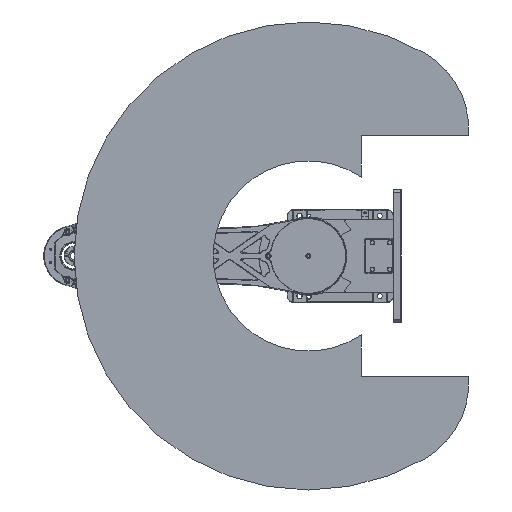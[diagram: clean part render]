
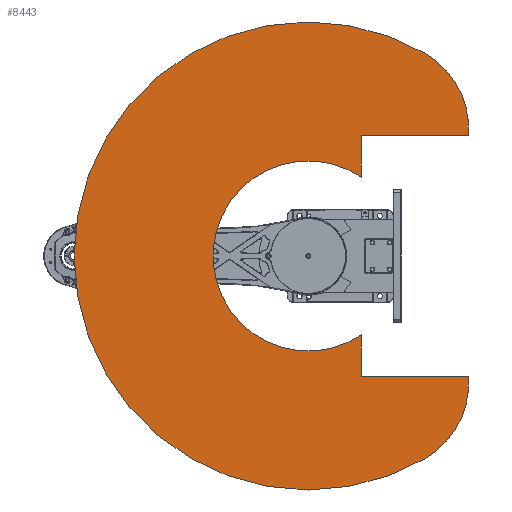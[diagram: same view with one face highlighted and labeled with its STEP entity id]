
A CAD part, front view. The second image highlights one B-rep face of the part: STEP entity #8443.
In plain terms, the highlighted planar face has unit normal (0, -1, 0).
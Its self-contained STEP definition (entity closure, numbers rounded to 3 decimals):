
#8443 = ADVANCED_FACE( '', ( #18847 ), #18848, .F. );
#18847 = FACE_OUTER_BOUND( '', #32738, .T. );
#18848 = PLANE( '', #32739 );
#32738 = EDGE_LOOP( '', ( #57113, #57114, #57115, #57116, #57117, #57118, #57119, #57120 ) );
#32739 = AXIS2_PLACEMENT_3D( '', #57121, #57122, #57123 );
#57113 = ORIENTED_EDGE( '', *, *, #73021, .T. );
#57114 = ORIENTED_EDGE( '', *, *, #74919, .F. );
#57115 = ORIENTED_EDGE( '', *, *, #77777, .F. );
#57116 = ORIENTED_EDGE( '', *, *, #72679, .F. );
#57117 = ORIENTED_EDGE( '', *, *, #77550, .T. );
#57118 = ORIENTED_EDGE( '', *, *, #77778, .T. );
#57119 = ORIENTED_EDGE( '', *, *, #77779, .T. );
#57120 = ORIENTED_EDGE( '', *, *, #77780, .T. );
#57121 = CARTESIAN_POINT( '', ( 95.263, 0., 55. ) );
#57122 = DIRECTION( '', ( 0., 1., 0. ) );
#57123 = DIRECTION( '', ( 0., 0., 1. ) );
#72679 = EDGE_CURVE( '', #87577, #87579, #87580, .T. );
#73021 = EDGE_CURVE( '', #88138, #88136, #88139, .T. );
#74919 = EDGE_CURVE( '', #91044, #88136, #91046, .T. );
#77550 = EDGE_CURVE( '', #87577, #94702, #94704, .T. );
#77777 = EDGE_CURVE( '', #87579, #91044, #94997, .T. );
#77778 = EDGE_CURVE( '', #94702, #94998, #94999, .T. );
#77779 = EDGE_CURVE( '', #94998, #95000, #95001, .T. );
#77780 = EDGE_CURVE( '', #95000, #88138, #95002, .T. );
#87577 = VERTEX_POINT( '', #110444 );
#87579 = VERTEX_POINT( '', #110447 );
#87580 = CIRCLE( '', #110448, 130. );
#88136 = VERTEX_POINT( '', #111342 );
#88138 = VERTEX_POINT( '', #111345 );
#88139 = LINE( '', #111346, #111347 );
#91044 = VERTEX_POINT( '', #116391 );
#91046 = CIRCLE( '', #116394, 130. );
#94702 = VERTEX_POINT( '', #122776 );
#94704 = LINE( '', #122779, #122780 );
#94997 = CIRCLE( '', #123255, 350. );
#94998 = VERTEX_POINT( '', #123256 );
#94999 = LINE( '', #123257, #123258 );
#95000 = VERTEX_POINT( '', #123259 );
#95001 = CIRCLE( '', #123260, 142.22 );
#95002 = LINE( '', #123261, #123262 );
#110444 = CARTESIAN_POINT( '', ( 180., 0., 239.573 ) );
#110447 = CARTESIAN_POINT( '', ( 303.109, 0., 175. ) );
#110448 = AXIS2_PLACEMENT_3D( '', #132450, #132451, #132452 );
#111342 = CARTESIAN_POINT( '', ( -180., 0., 239.573 ) );
#111345 = CARTESIAN_POINT( '', ( -180., 0., 79.5 ) );
#111346 = CARTESIAN_POINT( '', ( -180., 0., 79.5 ) );
#111347 = VECTOR( '', #132890, 1000. );
#116391 = CARTESIAN_POINT( '', ( -303.109, 0., 175. ) );
#116394 = AXIS2_PLACEMENT_3D( '', #134933, #134934, #134935 );
#122776 = CARTESIAN_POINT( '', ( 180., 0., 79.5 ) );
#122779 = CARTESIAN_POINT( '', ( 180., 0., 479.5 ) );
#122780 = VECTOR( '', #137505, 1000. );
#123255 = AXIS2_PLACEMENT_3D( '', #137709, #137710, #137711 );
#123256 = CARTESIAN_POINT( '', ( 117.925, 0., 79.5 ) );
#123257 = CARTESIAN_POINT( '', ( 180., 0., 79.5 ) );
#123258 = VECTOR( '', #137712, 1000. );
#123259 = CARTESIAN_POINT( '', ( -117.925, 0., 79.5 ) );
#123260 = AXIS2_PLACEMENT_3D( '', #137713, #137714, #137715 );
#123261 = CARTESIAN_POINT( '', ( 180., 0., 79.5 ) );
#123262 = VECTOR( '', #137716, 1000. );
#132450 = CARTESIAN_POINT( '', ( 190.526, 0., 110. ) );
#132451 = DIRECTION( '', ( 0., 1., 0. ) );
#132452 = DIRECTION( '', ( 1., 0., 0. ) );
#132890 = DIRECTION( '', ( 0., 0., 1. ) );
#134933 = CARTESIAN_POINT( '', ( -190.526, 0., 110. ) );
#134934 = DIRECTION( '', ( 0., 1., 0. ) );
#134935 = DIRECTION( '', ( 1., 0., 0. ) );
#137505 = DIRECTION( '', ( 0., 0., -1. ) );
#137709 = CARTESIAN_POINT( '', ( 0., 0., 0. ) );
#137710 = DIRECTION( '', ( 0., 1., 0. ) );
#137711 = DIRECTION( '', ( 1., 0., 0. ) );
#137712 = DIRECTION( '', ( -1., 0., 0. ) );
#137713 = CARTESIAN_POINT( '', ( 0., 0., 0. ) );
#137714 = DIRECTION( '', ( 0., 1., 0. ) );
#137715 = DIRECTION( '', ( 1., 0., 0. ) );
#137716 = DIRECTION( '', ( -1., 0., 0. ) );
